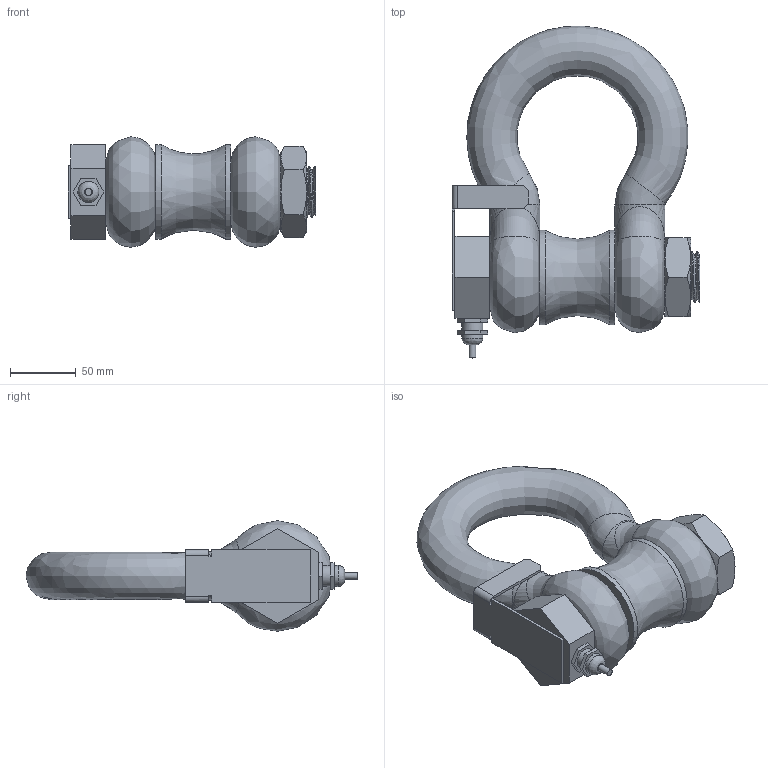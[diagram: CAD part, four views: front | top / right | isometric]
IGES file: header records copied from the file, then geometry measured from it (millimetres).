
Global section: file name: 535AHM2-20t v10; native system: unknown; preprocessor: unknown; author: unknown; organization: unknown; date: 20200505.105034; units: millimetre
Bounding box: 188.14 x 252.16 x 84 mm (x, y, z)
Volume: 1080761.7 mm3; surface area: 161550.6 mm2
Topology: 6 solids, 6 shells, 129 faces, 301 edges, 182 vertices
Faces by surface type: bspline 129
